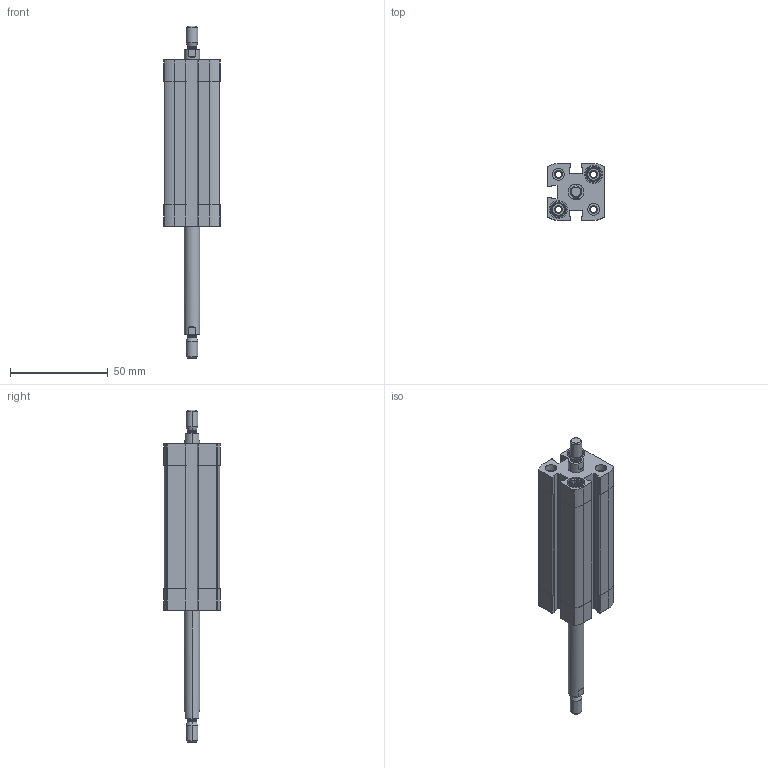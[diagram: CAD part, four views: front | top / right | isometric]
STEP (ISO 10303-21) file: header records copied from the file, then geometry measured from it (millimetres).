
FILE_DESCRIPTION (( 'STEP AP203' ), '1' );
FILE_NAME ('CCN16-50-P.STEP', '2020-06-22T18:38:09', ( '' ), ( '' ), 'SwSTEP 2.0', 'SolidWorks 2019', '' );
FILE_SCHEMA (( 'CONFIG_CONTROL_DESIGN' ));
Length unit declared in the file: millimetre
Products named in the file (1): CCN16-50-P
Bounding box: 29 x 29 x 169.7 mm (x, y, z)
Volume: 51871.8 mm3; surface area: 27588 mm2
Topology: 2 solids, 2 shells, 384 faces, 976 edges, 632 vertices
Faces by surface type: plane 192, cylinder 140, cone 44, torus 8
Entity records: 11783 total; most frequent: CARTESIAN_POINT 2293, DIRECTION 1986, ORIENTED_EDGE 1952, EDGE_CURVE 976, AXIS2_PLACEMENT_3D 725, VERTEX_POINT 632, LINE 536, VECTOR 536
